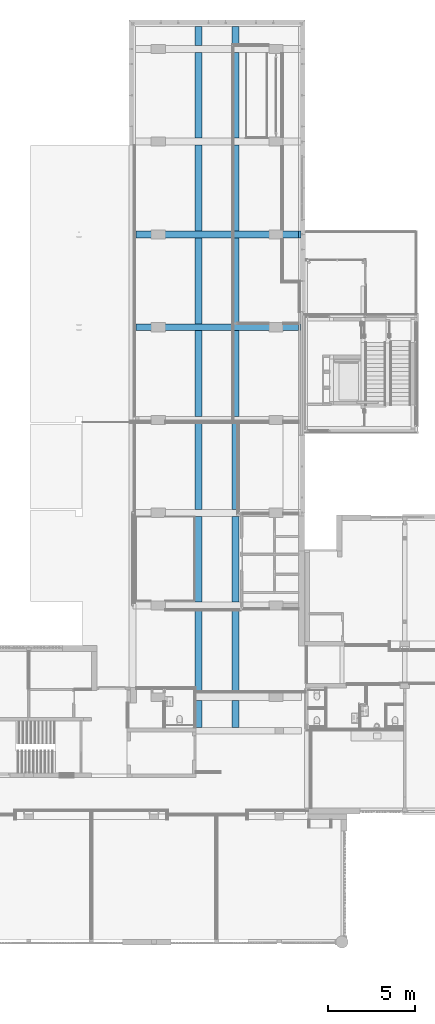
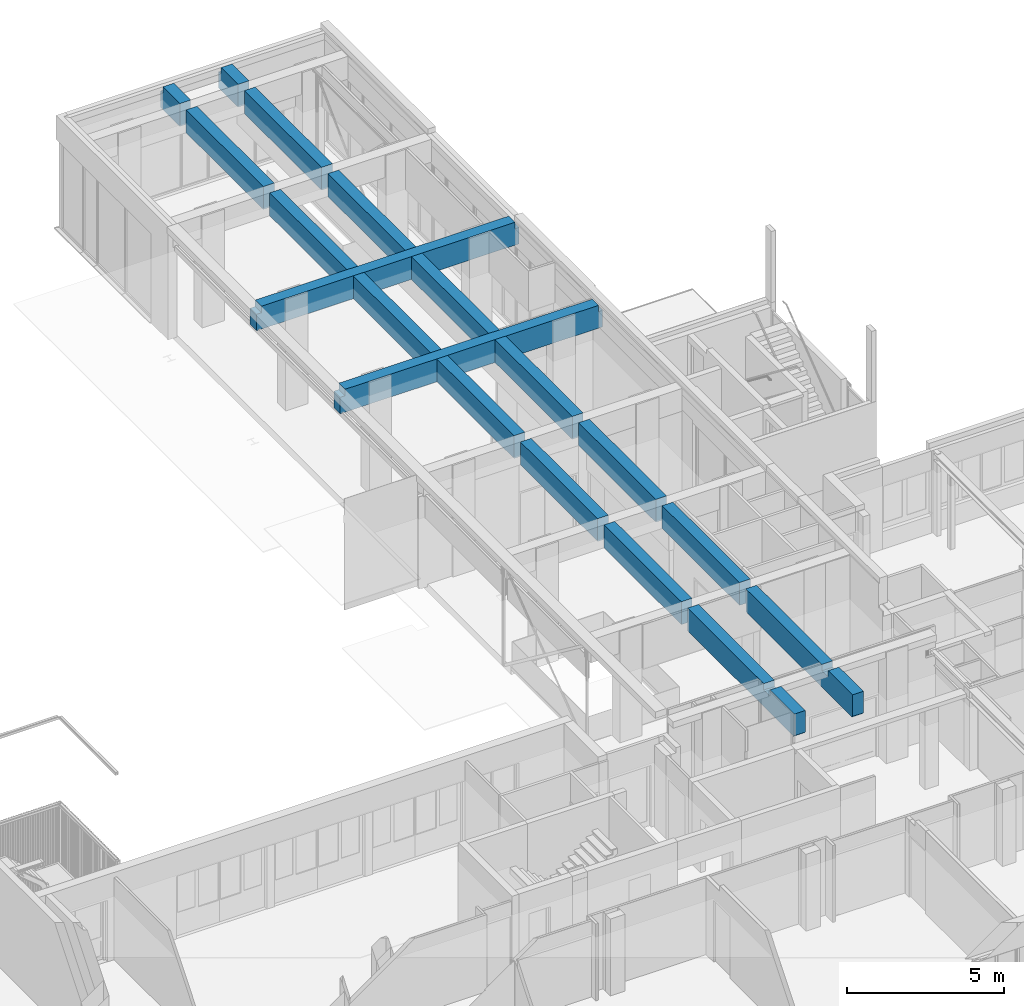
# One storey, part 25 of 117: 4 beams.
"""IFC2X3 building model written with IfcOpenShell, lengths in millimetres."""

from ifc_helpers import new_model, entity, si_unit, converted_unit, derived_unit, money_unit, direction, frame, origin_with_axes, place, context, subcontext, project, spatial, faceted_brep, material, type_object, element, save


model = new_model("IFC2X3")

# Units and contexts
model_context = context("Model", 3, precision=0.01, world=origin_with_axes(), true_north=direction((0.0, 1.0)))
body_context = subcontext(model_context, "Body", "Model", "MODEL_VIEW")
ifc_project = project(units=[si_unit("LENGTHUNIT", "METRE", prefix="MILLI"), si_unit("AREAUNIT", "SQUARE_METRE"), si_unit("VOLUMEUNIT", "CUBIC_METRE"), converted_unit("PLANEANGLEUNIT", "DEGREE", entity("IfcPlaneAngleMeasure", 0.0174532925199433), si_unit("PLANEANGLEUNIT", "RADIAN"), dimensions=[0, 0, 0, 0, 0, 0, 0]), money_unit("EUR"), converted_unit("TIMEUNIT", "Year", entity("IfcTimeMeasure", 31557600.0), si_unit("TIMEUNIT", "SECOND"), dimensions=[0, 0, 1, 0, 0, 0, 0]), si_unit("MASSUNIT", "GRAM", prefix="KILO"), si_unit("THERMODYNAMICTEMPERATUREUNIT", "DEGREE_CELSIUS"), si_unit("LUMINOUSINTENSITYUNIT", "LUMEN"), si_unit("ENERGYUNIT", "JOULE", prefix="MEGA"), derived_unit("THERMALCONDUCTANCEUNIT", [(si_unit("POWERUNIT", "WATT"), 1), (si_unit("LENGTHUNIT", "METRE"), -1), (si_unit("THERMODYNAMICTEMPERATUREUNIT", "KELVIN"), -1)]), derived_unit("SPECIFICHEATCAPACITYUNIT", [(si_unit("ENERGYUNIT", "JOULE"), 1), (si_unit("MASSUNIT", "GRAM", prefix="KILO"), -1), (si_unit("THERMODYNAMICTEMPERATUREUNIT", "KELVIN"), -1)]), derived_unit("MASSDENSITYUNIT", [(si_unit("MASSUNIT", "GRAM", prefix="KILO"), 1), (si_unit("VOLUMEUNIT", "CUBIC_METRE"), -1)])], contexts=[model_context])

# Site, building, storey
site_placement = place(None, origin_with_axes())
site = spatial("IfcSite", under=ifc_project, at=site_placement, Name="Site", CompositionType="ELEMENT")
building_placement = place(site_placement, origin_with_axes())
building = spatial("IfcBuilding", under=site, at=building_placement, Name="Naam gebouw", CompositionType="ELEMENT")
storey_placement = place(building_placement, frame((0.0, 0.0, 4150.0), z_axis=(0.0, 0.0, 1.0), x_axis=(1.0, 0.0, 0.0)))
storey = spatial("IfcBuildingStorey", under=building, at=storey_placement, Name="1e verdieping N", CompositionType="ELEMENT", Elevation=4150.0)

# Beams
ifc_material = material(Name="ALG - CONSTRUCTIEF KOLOM")
beam_type = type_object("IfcBeamType", Name="ALG - CONSTRUCTIEF KOLOM 400 x 890", PredefinedType="BEAM")
beam_1_placement = place(storey_placement, frame((26292.0, 56035.9155671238, 4340.0), z_axis=(0.0, 0.0, 1.0), x_axis=(-1.0, 0.0, 0.0)))
element("IfcBeam", 1, at=beam_1_placement, inside=storey, type_object=beam_type, material=ifc_material, Name="_Balk-x", ObjectType="BEAM", context=body_context, shape_type="Brep", body=[
    faceted_brep([(-200.0000000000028, 6560.003142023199, 0.0), (-200.0000000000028, 6560.003142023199, -889.9999999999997), (-199.9999999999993, 1630.003142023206, -889.9999999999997), (-199.9999999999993, 1630.003142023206, 0.0), (199.9999999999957, 6560.003142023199, 0.0), (199.9999999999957, 6560.003142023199, -889.9999999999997), (199.9999999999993, 1630.003142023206, -889.9999999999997), (199.9999999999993, 1630.003142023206, 0.0)], [[[0, 1, 2, 3]], [[0, 4, 5, 1]], [[1, 5, 6, 2]], [[2, 6, 7, 3]], [[4, 0, 3, 7]], [[5, 4, 7, 6]]]),
    faceted_brep([(-199.9999999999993, 150.0000000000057, 0.0), (199.9999999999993, 150.0000000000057, 0.0), (199.9999999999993, 1230.0031420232, 0.0), (-199.9999999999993, 1230.0031420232, 0.0), (-200.0000000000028, 150.0000000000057, -250.0000000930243), (200.0000000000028, 150.0000000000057, -250.0000000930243), (199.9999999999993, 0.0, -250.0000000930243), (199.9999999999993, 0.0, -890.000000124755), (199.9999999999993, 1230.0031420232, -889.9999999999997), (-199.9999999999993, 1230.0031420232, -889.9999999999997), (-199.9999999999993, 0.0, -890.000000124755), (-199.9999999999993, 0.0, -250.0000000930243)], [[[0, 1, 2, 3]], [[4, 5, 1, 0]], [[6, 7, 8, 2, 1, 5]], [[2, 8, 9, 3]], [[4, 0, 3, 9, 10, 11]], [[6, 5, 4, 11]], [[10, 7, 6, 11]], [[7, 10, 9, 8]]]),
    faceted_brep([(-200.0000000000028, 11890.0031420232, 0.0), (-200.0000000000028, 11890.0031420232, -889.9999999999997), (-200.0000000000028, 6960.003142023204, -889.9999999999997), (-200.0000000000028, 6960.003123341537, 0.0), (199.9999999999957, 11890.0031420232, 0.0), (199.9999999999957, 11890.0031420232, -889.9999999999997), (199.9999999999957, 6960.003142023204, -889.9999999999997), (199.9999999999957, 6960.003121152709, 0.0)], [[[0, 1, 2, 3]], [[0, 4, 5, 1]], [[1, 5, 6, 2]], [[2, 6, 7, 3]], [[4, 0, 3, 7]], [[5, 4, 7, 6]]]),
    faceted_brep([(-200.0000000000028, 17220.00314202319, 0.0), (-200.0000000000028, 17220.00314202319, -889.9999999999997), (-200.0000000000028, 12290.0031420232, -889.9999999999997), (-200.0000000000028, 12290.0031420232, 0.0), (199.9999999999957, 17220.00314202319, 0.0), (199.9999999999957, 17220.00314202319, -889.9999999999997), (199.9999999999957, 12290.0031420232, -889.9999999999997), (199.9999999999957, 12290.0031420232, 0.0)], [[[0, 1, 2, 3]], [[0, 4, 5, 1]], [[1, 5, 6, 2]], [[2, 6, 7, 3]], [[4, 0, 3, 7]], [[5, 4, 7, 6]]]),
    faceted_brep([(-200.0000000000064, 22550.00314202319, 0.0), (-200.0000000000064, 22550.00314202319, -890.000000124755), (-200.0000000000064, 17620.0031420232, -889.9999999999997), (-200.0000000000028, 17620.00314202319, 0.0), (199.9999999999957, 22550.00314202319, 0.0), (199.9999999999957, 22550.00314202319, -890.000000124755), (199.9999999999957, 17620.0031420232, -889.9999999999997), (199.9999999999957, 17620.00314202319, 0.0)], [[[0, 1, 2, 3]], [[0, 4, 5, 1]], [[1, 5, 6, 2]], [[2, 6, 7, 3]], [[4, 0, 3, 7]], [[5, 4, 7, 6]]]),
    faceted_brep([(-200.0000000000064, 27880.0031420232, 0.0), (-200.0000000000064, 27880.0031420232, -890.000000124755), (-200.0000000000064, 22950.0031420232, -890.000000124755), (-200.0000000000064, 22950.0031420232, 0.0), (199.9999999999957, 27880.0031420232, 0.0), (199.9999999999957, 27880.0031420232, -890.000000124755), (199.9999999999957, 22950.0031420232, -890.000000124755), (199.9999999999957, 22950.0031420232, 0.0)], [[[0, 1, 2, 3]], [[0, 4, 5, 1]], [[1, 5, 6, 2]], [[2, 6, 7, 3]], [[4, 0, 3, 7]], [[5, 4, 7, 6]]]),
    faceted_brep([(-200.0000000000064, 33215.8177587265, 0.0), (-200.0000000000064, 33215.8177587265, -890.000000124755), (-200.0000000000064, 28280.0031420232, -890.000000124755), (-200.0000000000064, 28280.00314202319, 0.0), (199.9999999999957, 33215.8177587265, 0.0), (199.9999999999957, 33215.8177587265, -890.000000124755), (199.9999999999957, 28280.0031420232, -890.000000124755), (199.9999999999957, 28280.00314202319, 0.0)], [[[0, 1, 2, 3]], [[0, 4, 5, 1]], [[1, 5, 6, 2]], [[2, 6, 7, 3]], [[4, 0, 3, 7]], [[5, 4, 7, 6]]]),
    faceted_brep([(-200.0000000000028, 40427.5031420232, -839.9999999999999), (-200.0000000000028, 40385.00311126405, -839.9999999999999), (-200.0000000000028, 40385.00311126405, -890.000000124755), (-200.0000000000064, 33615.8177587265, -890.000000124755), (-200.0000000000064, 33615.8177587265, 0.0), (-200.0000000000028, 38470.0031420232, 0.0), (-200.0000000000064, 38470.0031420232, -250.0000000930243), (-200.0000000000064, 38870.0031420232, -250.0000000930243), (-200.0000000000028, 38870.0031420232, 0.0), (-200.0000000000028, 40427.5031420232, 0.0), (199.9999999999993, 40385.00311126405, -839.9999999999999), (199.9999999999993, 40427.5031420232, -839.9999999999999), (199.9999999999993, 40385.00311126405, -890.000000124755), (199.9999999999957, 33615.8177587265, -890.000000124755), (199.9999999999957, 33615.8177587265, 0.0), (199.9999999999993, 38470.0031420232, 0.0), (199.9999999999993, 38470.0031420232, -250.0000000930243), (199.9999999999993, 38870.0031420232, -250.0000000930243), (199.9999999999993, 38870.0031420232, 0.0), (199.9999999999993, 40427.5031420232, 0.0)], [[[0, 1, 2, 3, 4, 5, 6, 7, 8, 9]], [[10, 1, 0, 11]], [[12, 2, 1, 10]], [[3, 2, 12, 13]], [[3, 13, 14, 4]], [[15, 5, 4, 14]], [[5, 15, 16, 6]], [[6, 16, 17, 7]], [[8, 7, 17, 18]], [[18, 19, 9, 8]], [[19, 11, 0, 9]], [[12, 10, 11, 19, 18, 17, 16, 15, 14, 13]]]),
])
beam_2_placement = place(storey_placement, frame((24149.99999999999, 56035.91242510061, 4340.0), z_axis=(0.0, 0.0, 1.0), x_axis=(-1.0, 0.0, 0.0)))
element("IfcBeam", 2, at=beam_2_placement, inside=storey, type_object=beam_type, material=ifc_material, Name="_Balk-x", ObjectType="BEAM", context=body_context, shape_type="Brep", body=[
    faceted_brep([(-200.0000000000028, 6560.000000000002, 0.0), (-200.0000000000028, 6560.000000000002, -889.9999999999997), (-199.9999999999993, 1630.00000000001, -889.9999999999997), (-199.9999999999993, 1630.00000000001, 0.0), (199.9999999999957, 6560.000000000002, 0.0), (199.9999999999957, 6560.000000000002, -889.9999999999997), (199.9999999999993, 1630.00000000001, -889.9999999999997), (199.9999999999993, 1630.00000000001, 0.0)], [[[0, 1, 2, 3]], [[0, 4, 5, 1]], [[1, 5, 6, 2]], [[2, 6, 7, 3]], [[4, 0, 3, 7]], [[5, 4, 7, 6]]]),
    faceted_brep([(-199.9999999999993, 149.9968579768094, 0.0), (199.9999999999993, 149.9968579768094, 0.0), (199.9999999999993, 1230.000000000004, 0.0), (-199.9999999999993, 1230.000000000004, 0.0), (-200.0000000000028, 149.9968579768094, -250.0000000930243), (200.0000000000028, 149.9968579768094, -250.0000000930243), (199.9999999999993, -0.003142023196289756, -250.0000000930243), (199.9999999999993, 0.0, -890.000000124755), (199.9999999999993, 1230.000000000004, -889.9999999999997), (-199.9999999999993, 1230.000000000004, -889.9999999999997), (-199.9999999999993, 0.0, -890.000000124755), (-199.9999999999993, -0.003142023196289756, -250.0000000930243)], [[[0, 1, 2, 3]], [[4, 5, 1, 0]], [[6, 7, 8, 2, 1, 5]], [[2, 8, 9, 3]], [[4, 0, 3, 9, 10, 11]], [[6, 5, 4, 11]], [[10, 7, 6, 11]], [[7, 10, 9, 8]]]),
    faceted_brep([(-200.0000000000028, 11890.0, 0.0), (-200.0000000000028, 11890.0, -889.9999999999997), (-200.0000000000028, 6960.000000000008, -889.9999999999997), (-200.0000000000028, 6959.999969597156, 0.0), (199.9999999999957, 11890.0, 0.0), (199.9999999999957, 11890.0, -889.9999999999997), (199.9999999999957, 6960.000000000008, -889.9999999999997), (199.9999999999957, 6959.999967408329, 0.0)], [[[0, 1, 2, 3]], [[0, 4, 5, 1]], [[1, 5, 6, 2]], [[2, 6, 7, 3]], [[4, 0, 3, 7]], [[5, 4, 7, 6]]]),
    faceted_brep([(-200.0000000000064, 17220.0, 0.0), (-200.0000000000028, 17220.0, -889.9999999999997), (-200.0000000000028, 12290.00000000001, -889.9999999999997), (-200.0000000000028, 12290.00000000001, 0.0), (199.9999999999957, 17220.0, 0.0), (199.9999999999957, 17220.0, -889.9999999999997), (199.9999999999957, 12290.00000000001, -889.9999999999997), (199.9999999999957, 12290.00000000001, 0.0)], [[[0, 1, 2, 3]], [[0, 4, 5, 1]], [[1, 5, 6, 2]], [[2, 6, 7, 3]], [[4, 0, 3, 7]], [[5, 4, 7, 6]]]),
    faceted_brep([(-200.0000000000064, 22550.0, 0.0), (-200.0000000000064, 22550.0, -890.000000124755), (-200.0000000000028, 17620.0, -889.9999999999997), (-200.0000000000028, 17620.0, 0.0), (199.9999999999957, 22550.0, 0.0), (199.9999999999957, 22550.0, -890.000000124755), (199.9999999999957, 17620.0, -889.9999999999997), (199.9999999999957, 17620.0, 0.0)], [[[0, 1, 2, 3]], [[0, 4, 5, 1]], [[1, 5, 6, 2]], [[2, 6, 7, 3]], [[4, 0, 3, 7]], [[5, 4, 7, 6]]]),
    faceted_brep([(-200.0000000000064, 27880.0, 0.0), (-200.0000000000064, 27880.0, -890.000000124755), (-200.0000000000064, 22950.0, -890.000000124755), (-200.0000000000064, 22950.0, 0.0), (199.9999999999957, 27880.0, 0.0), (199.9999999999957, 27880.0, -890.000000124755), (199.9999999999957, 22950.0, -890.000000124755), (199.9999999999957, 22950.0, 0.0)], [[[0, 1, 2, 3]], [[0, 4, 5, 1]], [[1, 5, 6, 2]], [[2, 6, 7, 3]], [[4, 0, 3, 7]], [[5, 4, 7, 6]]]),
    faceted_brep([(-200.0000000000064, 33215.8146167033, 0.0), (-200.0000000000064, 33215.8146167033, -890.000000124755), (-200.0000000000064, 28280.0, -890.000000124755), (-200.0000000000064, 28280.0, 0.0), (199.9999999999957, 33215.8146167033, 0.0), (199.9999999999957, 33215.8146167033, -890.000000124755), (199.9999999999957, 28280.0, -890.000000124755), (199.9999999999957, 28280.0, 0.0)], [[[0, 1, 2, 3]], [[0, 4, 5, 1]], [[1, 5, 6, 2]], [[2, 6, 7, 3]], [[4, 0, 3, 7]], [[5, 4, 7, 6]]]),
    faceted_brep([(-200.0000000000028, 40427.49999999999, -839.9999999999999), (-200.0000000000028, 40384.99996924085, -839.9999999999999), (-200.0000000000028, 40384.99996924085, -890.000000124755), (-200.0000000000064, 33615.8146167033, -890.000000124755), (-200.0000000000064, 33615.8146167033, 0.0), (-200.0000000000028, 38470.0, 0.0), (-200.0000000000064, 38470.0, -250.0000000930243), (-200.0000000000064, 38870.0, -250.0000000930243), (-200.0000000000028, 38870.0, 0.0), (-200.0000000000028, 40427.49999999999, 0.0), (199.9999999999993, 40384.99996924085, -839.9999999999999), (199.9999999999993, 40427.49999999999, -839.9999999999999), (199.9999999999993, 40384.99996924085, -890.000000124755), (199.9999999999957, 33615.8146167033, -890.000000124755), (199.9999999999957, 33615.8146167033, 0.0), (199.9999999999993, 38470.0, 0.0), (199.9999999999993, 38470.0, -250.0000000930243), (199.9999999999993, 38870.0, -250.0000000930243), (199.9999999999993, 38870.0, 0.0), (199.9999999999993, 40427.49999999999, 0.0)], [[[0, 1, 2, 3, 4, 5, 6, 7, 8, 9]], [[10, 1, 0, 11]], [[12, 2, 1, 10]], [[3, 2, 12, 13]], [[3, 13, 14, 4]], [[15, 5, 4, 14]], [[5, 15, 16, 6]], [[6, 16, 17, 7]], [[8, 7, 17, 18]], [[18, 19, 9, 8]], [[19, 11, 0, 9]], [[12, 10, 11, 19, 18, 17, 16, 15, 14, 13]]]),
])
beam_3_placement = place(storey_placement, frame((20386.0, 38615.91242510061, 4340.0), z_axis=(0.0, 0.0, 1.0), x_axis=(0.0, -1.0, 0.0)))
element("IfcBeam", 3, at=beam_3_placement, inside=storey, type_object=beam_type, material=ifc_material, Name="_Balk-x", ObjectType="BEAM", context=body_context, shape_type="Brep", body=[
    faceted_brep([(-200.0000000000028, 184.9999999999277, -250.0000000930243), (-200.0000000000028, 184.9999999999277, 0.0), (-200.0000000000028, 9519.999999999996, 0.0), (-200.0000000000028, 9519.999999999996, -250.0000000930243), (-200.0000000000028, 9669.99999999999, -250.0000000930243), (-200.0000000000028, 9669.999999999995, -889.9999999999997), (-200.0000000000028, 0.0, -889.9999999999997), (-200.0000000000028, 0.0, -250.0000000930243), (200.0000000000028, 184.9999999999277, -250.0000000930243), (200.0000000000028, 184.9999999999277, 0.0), (199.9999999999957, 9519.999999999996, 0.0), (200.0000000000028, 9519.999999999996, -250.0000000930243), (200.0000000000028, 9669.99999999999, -250.0000000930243), (200.0000000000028, 9669.999999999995, -889.9999999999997), (200.0000000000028, 0.0, -889.9999999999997), (200.0000000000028, 0.0, -250.0000000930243)], [[[0, 1, 2, 3, 4, 5, 6, 7]], [[1, 0, 8, 9]], [[1, 9, 10, 2]], [[10, 11, 3, 2]], [[3, 11, 12, 4]], [[13, 5, 4, 12]], [[5, 13, 14, 6]], [[7, 6, 14, 15]], [[7, 15, 8, 0]], [[13, 12, 11, 10, 9, 8, 15, 14]]]),
])
beam_4_placement = place(storey_placement, frame((20386.0, 43945.9124251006, 4340.0), z_axis=(0.0, 0.0, 1.0), x_axis=(0.0, -1.0, 0.0)))
element("IfcBeam", 4, at=beam_4_placement, inside=storey, type_object=beam_type, material=ifc_material, Name="_Balk-x", ObjectType="BEAM", context=body_context, shape_type="Brep", body=[
    faceted_brep([(-200.0000000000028, 184.9999999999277, -250.0000000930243), (-200.0000000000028, 184.9999999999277, 0.0), (-200.0000000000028, 9519.999999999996, 0.0), (-200.0000000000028, 9519.999999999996, -250.0000000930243), (-200.0000000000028, 9669.99999999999, -250.0000000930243), (-200.0000000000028, 9669.999999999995, -889.9999999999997), (-200.0000000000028, 0.0, -889.9999999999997), (-200.0000000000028, 0.0, -250.0000000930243), (200.0000000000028, 184.9999999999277, -250.0000000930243), (200.0000000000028, 184.9999999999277, 0.0), (200.0000000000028, 9519.999999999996, 0.0), (200.0000000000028, 9519.999999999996, -250.0000000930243), (200.0000000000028, 9669.99999999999, -250.0000000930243), (200.0000000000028, 9669.999999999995, -889.9999999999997), (200.0000000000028, 0.0, -889.9999999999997), (200.0000000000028, 0.0, -250.0000000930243)], [[[0, 1, 2, 3, 4, 5, 6, 7]], [[1, 0, 8, 9]], [[1, 9, 10, 2]], [[10, 11, 3, 2]], [[3, 11, 12, 4]], [[13, 5, 4, 12]], [[5, 13, 14, 6]], [[7, 6, 14, 15]], [[7, 15, 8, 0]], [[13, 12, 11, 10, 9, 8, 15, 14]]]),
])

save(model, "model.ifc")
